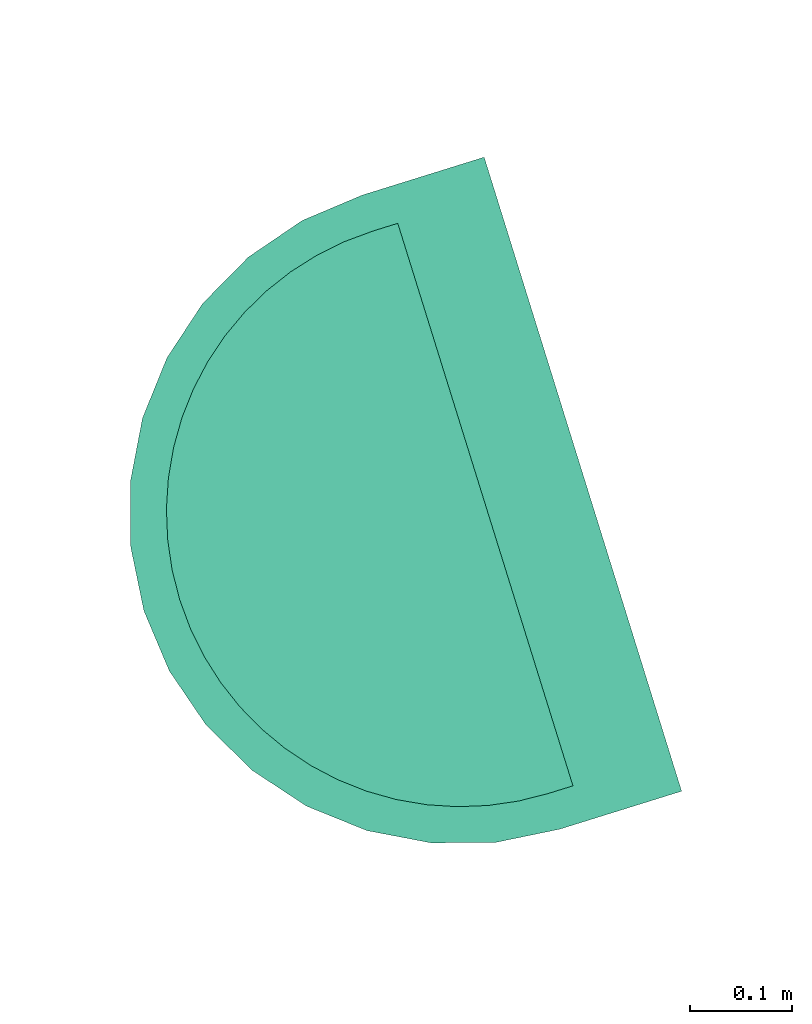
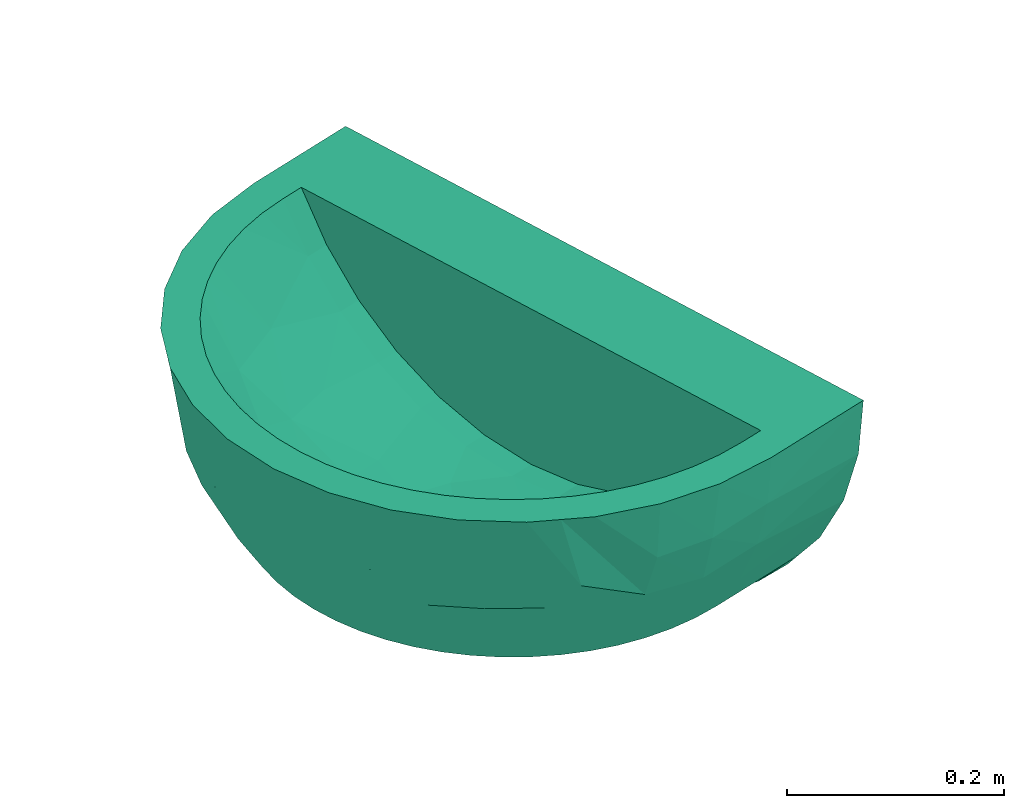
# Not in any storey, part 10 of 17: 1 sanitary terminal.
"""IFC4 model written with IfcOpenShell, lengths in metres."""

import ifcopenshell
import ifcopenshell.guid

model = None  # the IFC model being written
_history = None  # IfcOwnerHistory: only IFC2X3 demands one
_inside = {}  # id of a spatial element -> (the spatial element, [elements in it])
_under = {}  # id of a project, library or spatial element -> (it, [spatial elements below it])
_declared = {}  # id of a project -> (the project, [libraries it declares])
_typed = {}  # id of a type object -> (the type object, [elements of that type])
_made_of = {}  # id of a material, layer set ... -> (it, [elements and type objects made of it])


def new_model(schema):
    """Start an empty IFC model of exactly this schema.

    Asked for "IFC4X3", IfcOpenShell would pick the latest addendum, in which some entities
    have other attributes; the version numbers below select the first issue.
    IFC2X3 requires an IfcOwnerHistory on every rooted entity: one is made here for all.
    """
    global model, _history
    if schema == "IFC4X3":
        model = ifcopenshell.file(schema_version=(4, 3, 0, 0))
    else:
        model = ifcopenshell.file(schema=schema)
    _inside.clear()
    _under.clear()
    _declared.clear()
    _typed.clear()
    _made_of.clear()
    _history = None
    if model.schema == "IFC2X3":
        org = make("IfcOrganization", Name="unknown")
        user = make(
            "IfcPersonAndOrganization",
            ThePerson=make("IfcPerson", FamilyName="unknown"),
            TheOrganization=org,
        )
        app = make(
            "IfcApplication",
            ApplicationDeveloper=org,
            Version="unknown",
            ApplicationFullName="unknown",
            ApplicationIdentifier="unknown",
        )
        _history = make(
            "IfcOwnerHistory",
            OwningUser=user,
            OwningApplication=app,
            ChangeAction="ADDED",
            CreationDate=0,
        )
    return model


def make(cls, **values):
    """One entity of the class cls with the attributes given. An attribute that is None is left unset."""
    return model.create_entity(
        cls, **{name: value for name, value in values.items() if value is not None}
    )


def entity(cls, *values):
    """Any entity or typed value of the class cls, its attributes in the order of the schema. None: left unset."""
    e = model.create_entity(cls)
    for i, value in enumerate(values):
        if value is not None:
            e[i] = value
    return e


def rooted(cls, **values):
    """An entity with a GlobalId (a new one), such as an element, a storey or a relation."""
    return make(cls, GlobalId=ifcopenshell.guid.new(), OwnerHistory=_history, **values)


def si_unit(unit_type, name, prefix=None):
    """IfcSIUnit, for example si_unit("LENGTHUNIT", "METRE", prefix="MILLI")."""
    return make("IfcSIUnit", UnitType=unit_type, Prefix=prefix, Name=name)


def converted_unit(unit_type, name, factor, base, dimensions=None, offset=None):
    """IfcConversionBasedUnit, such as the inch: factor (a typed value) times the base unit."""
    return make(
        "IfcConversionBasedUnit"
        if offset is None
        else "IfcConversionBasedUnitWithOffset",
        ConversionOffset=offset,
        Dimensions=None
        if dimensions is None
        else entity("IfcDimensionalExponents", *dimensions),
        UnitType=unit_type,
        Name=name,
        ConversionFactor=make(
            "IfcMeasureWithUnit", ValueComponent=factor, UnitComponent=base
        ),
    )


def assignment(units):
    """IfcUnitAssignment: the units of a project."""
    return None if units is None else make("IfcUnitAssignment", Units=units)


def point(xyz):
    """IfcCartesianPoint."""
    return None if xyz is None else make("IfcCartesianPoint", Coordinates=xyz)


def direction(xyz):
    """IfcDirection."""
    return None if xyz is None else make("IfcDirection", DirectionRatios=xyz)


def frame(location, z_axis=None, x_axis=None):
    """IfcAxis2Placement3D, a coordinate frame: its origin and axes. An axis left out is left unset."""
    return make(
        "IfcAxis2Placement3D",
        Location=point(location),
        Axis=direction(z_axis),
        RefDirection=direction(x_axis),
    )


def origin():
    """The frame at (0, 0, 0) with its axes left unset."""
    return frame((0.0, 0.0, 0.0))


def place(relative_to, where):
    """IfcLocalPlacement: puts the frame where relative to a parent placement (None: the world)."""
    return make(
        "IfcLocalPlacement", PlacementRelTo=relative_to, RelativePlacement=where
    )


def context(
    kind, dimensions, precision=None, world=None, true_north=None, identifier=None
):
    """IfcGeometricRepresentationContext, for example the 3D "Model" context."""
    return make(
        "IfcGeometricRepresentationContext",
        ContextIdentifier=identifier,
        ContextType=kind,
        CoordinateSpaceDimension=dimensions,
        Precision=precision,
        WorldCoordinateSystem=world,
        TrueNorth=true_north,
    )


def subcontext(parent, identifier, kind, view, scale=None):
    """IfcGeometricRepresentationSubContext, for example "Body" below "Model"."""
    return make(
        "IfcGeometricRepresentationSubContext",
        ContextIdentifier=identifier,
        ContextType=kind,
        ParentContext=parent,
        TargetScale=scale,
        TargetView=view,
    )


def project(units=None, contexts=None):
    """IfcProject with its units and contexts."""
    return rooted(
        "IfcProject",
        Name="project",
        RepresentationContexts=contexts,
        UnitsInContext=assignment(units),
    )


def point_list(points):
    """IfcCartesianPointList2D or 3D."""
    cls = (
        "IfcCartesianPointList2D" if len(points[0]) == 2 else "IfcCartesianPointList3D"
    )
    return make(cls, CoordList=points)


def polygons(points, faces, closed=None, point_numbers=None):
    """IfcPolygonalFaceSet: a face is its outer loop, then its inner loops; points numbered from 1."""
    made = []
    for loops in faces:
        if len(loops) == 1:
            made.append(make("IfcIndexedPolygonalFace", CoordIndex=loops[0]))
        else:
            made.append(
                make(
                    "IfcIndexedPolygonalFaceWithVoids",
                    CoordIndex=loops[0],
                    InnerCoordIndices=loops[1:],
                )
            )
    return make(
        "IfcPolygonalFaceSet",
        Coordinates=point_list(points),
        Closed=closed,
        Faces=made,
        PnIndex=point_numbers,
    )


def shape(context_of_items, identifier, shape_type, items):
    """IfcShapeRepresentation: the items that make up one representation, for example the "Body"."""
    return make(
        "IfcShapeRepresentation",
        ContextOfItems=context_of_items,
        RepresentationIdentifier=identifier,
        RepresentationType=shape_type,
        Items=items,
    )


def source(mapping_origin, context_of_items, identifier, shape_type, items):
    """IfcRepresentationMap: a shape defined once, which mapped items show again and again."""
    return make(
        "IfcRepresentationMap",
        MappingOrigin=mapping_origin,
        MappedRepresentation=shape(context_of_items, identifier, shape_type, items),
    )


def transform(
    local_origin,
    x_axis=None,
    y_axis=None,
    z_axis=None,
    scale=None,
    scale2=None,
    scale3=None,
    uniform=True,
):
    """IfcCartesianTransformationOperator3D, or its non-uniform kind. x_axis, y_axis, z_axis: its Axis1, 2, 3."""
    if uniform:
        return make(
            "IfcCartesianTransformationOperator3D",
            Axis1=direction(x_axis),
            Axis2=direction(y_axis),
            LocalOrigin=point(local_origin),
            Scale=scale,
            Axis3=direction(z_axis),
        )
    return make(
        "IfcCartesianTransformationOperator3DnonUniform",
        Axis1=direction(x_axis),
        Axis2=direction(y_axis),
        LocalOrigin=point(local_origin),
        Scale=scale,
        Axis3=direction(z_axis),
        Scale2=scale2,
        Scale3=scale3,
    )


def mapped(mapping_source, mapping_target):
    """IfcMappedItem: shows the shape of a source again, moved by a transform."""
    return make(
        "IfcMappedItem", MappingSource=mapping_source, MappingTarget=mapping_target
    )


def material(Name=None, Category=None):
    """IfcMaterial."""
    return make("IfcMaterial", Name=Name, Category=Category)


def made_of(thing, what):
    """Note that an element or type object is made of a material, layer set ...; save() writes the relation."""
    if what is not None:
        _made_of.setdefault(what.id(), (what, []))[1].append(thing)
    return thing


def type_object(cls, material=None, **own):
    """A type object (cls), such as IfcWallType, which elements share."""
    return made_of(rooted(cls, **own), material)


def type_shapes(of_type, sources):
    """Give a type object the sources (RepresentationMaps) that its elements show as mapped items."""
    of_type.RepresentationMaps = sources


def element(
    cls,
    number,
    at=None,
    inside=None,
    cuts=None,
    type_object=None,
    material=None,
    context=None,
    identifier="Body",
    shape_type=None,
    held_by="IfcProductDefinitionShape",
    body=None,
    shapes=None,
    **own,
):
    """One element of the class cls, such as IfcWall. Its Tag is "e" and its number.

    at: its placement. inside: the storey or other place that contains it. cuts: it is an
    opening in that element (IfcRelVoidsElement). A single representation is given by context,
    identifier, shape_type and body (its items); several are given by shapes. held_by: the class
    of the entity that holds the representations. save() writes the other relations.
    """
    e = rooted(cls, Tag="e%d" % number, ObjectPlacement=at, **own)
    if body is not None:
        shapes = [shape(context, identifier, shape_type, body)]
    if shapes is not None:
        e.Representation = make(held_by, Representations=shapes)
    if inside is not None:
        _inside.setdefault(inside.id(), (inside, []))[1].append(e)
    if cuts is not None:
        rooted(
            "IfcRelVoidsElement", RelatingBuildingElement=cuts, RelatedOpeningElement=e
        )
    if type_object is not None:
        _typed.setdefault(type_object.id(), (type_object, []))[1].append(e)
    return made_of(e, material)


def aggregate(whole, parts):
    """IfcRelAggregates: a whole, such as a stair, and the parts it consists of."""
    return rooted("IfcRelAggregates", RelatingObject=whole, RelatedObjects=parts)


def save(model, path):
    """Write the relations noted so far, then the file.

    IfcRelAggregates (storeys below a building ...), IfcRelContainedInSpatialStructure (elements
    in a storey), IfcRelDefinesByType, IfcRelAssociatesMaterial and IfcRelDeclares: one each for
    every whole, place, type object, material and project.
    """
    for whole, parts in _under.values():
        aggregate(whole, parts)
    for where, things in _inside.values():
        rooted(
            "IfcRelContainedInSpatialStructure",
            RelatedElements=things,
            RelatingStructure=where,
        )
    for kind, things in _typed.values():
        rooted("IfcRelDefinesByType", RelatedObjects=things, RelatingType=kind)
    for what, things in _made_of.values():
        rooted("IfcRelAssociatesMaterial", RelatedObjects=things, RelatingMaterial=what)
    for by, libraries in _declared.values():
        rooted("IfcRelDeclares", RelatingContext=by, RelatedDefinitions=libraries)
    model.write(path)


model = new_model("IFC4")

# Units and contexts
model_context = context("Model", 3, precision=1e-05, world=origin(), true_north=direction((6.12323399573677e-17, 1.0)))
body_context = subcontext(model_context, "Body", "Model", "MODEL_VIEW")
ifc_project = project(units=[si_unit("LENGTHUNIT", "METRE"), si_unit("AREAUNIT", "SQUARE_METRE"), converted_unit("PLANEANGLEUNIT", "DEGREE", entity("IfcPlaneAngleMeasure", 0.0174532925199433), si_unit("PLANEANGLEUNIT", "RADIAN"), dimensions=[0, 0, 0, 0, 0, 0, 0]), si_unit("VOLUMEUNIT", "CUBIC_METRE")], contexts=[model_context])

# Sanitary terminal
ifc_material = material(Name="<Unnamed>")
sanitary_terminal_type = type_object("IfcSanitaryTerminalType", Name="NLRS_74_PF_WB_wastafel_gen:wastafel", PredefinedType="SINK", material=ifc_material)
shared_shape = source(origin(), body_context, "Body", "Tessellation", [
    polygons([(-0.303081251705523, -0.175000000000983, -6.7), (-0.296836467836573, -0.238404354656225, -6.7), (-0.278342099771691, -0.299372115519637, -6.7), (-0.248308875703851, -0.355560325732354, -6.7), (-0.207890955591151, -0.404809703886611, -6.7), (-0.158641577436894, -0.44522762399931, -6.7), (-0.102453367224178, -0.475260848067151, -6.7), (-0.0414856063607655, -0.493755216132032, -6.7), (0.021918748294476, -0.500000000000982, -6.7), (0.021918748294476, -0.463314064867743, -6.7), (-0.00821701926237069, -0.461734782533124, -6.7), (-0.038024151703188, -0.457013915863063, -6.7), (-0.0671705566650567, -0.449204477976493, -6.7), (-0.0953421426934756, -0.438391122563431, -6.7), (-0.122231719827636, -0.424691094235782, -6.7), (-0.147543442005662, -0.408254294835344, -6.7), (-0.170998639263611, -0.389261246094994, -6.7), (-0.192339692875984, -0.367920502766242, -6.7), (-0.21133265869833, -0.344466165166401, -6.7), (-0.227769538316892, -0.319155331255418, -6.7), (-0.241470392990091, -0.292265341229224, -6.7), (-0.252285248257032, -0.264090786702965, -6.7), (-0.260095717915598, -0.234940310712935, -6.7), (-0.264816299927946, -0.205133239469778, -6.7), (-0.266395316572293, -0.175000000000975, -6.7), (-0.266395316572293, -0.150000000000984, -6.7), (0.021918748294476, -0.150000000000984, -6.7), (0.021918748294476, -0.0499999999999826, -6.7), (-0.303081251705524, -0.0499999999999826, -6.7), (0.346918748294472, -0.175000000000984, -6.7), (0.346918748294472, -0.0499999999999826, -6.7), (0.310232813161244, -0.150000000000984, -6.7), (0.310232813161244, -0.175000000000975, -6.7), (0.308653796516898, -0.205133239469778, -6.7), (0.303933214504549, -0.234940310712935, -6.7), (0.296122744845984, -0.264090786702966, -6.7), (0.285307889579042, -0.292265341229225, -6.7), (0.271607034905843, -0.319155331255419, -6.7), (0.255170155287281, -0.344466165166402, -6.7), (0.236177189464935, -0.367920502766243, -6.7), (0.214836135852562, -0.389261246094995, -6.7), (0.191380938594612, -0.408254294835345, -6.7), (0.166069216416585, -0.424691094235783, -6.7), (0.139179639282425, -0.438391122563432, -6.7), (0.111008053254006, -0.449204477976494, -6.7), (0.0818616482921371, -0.457013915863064, -6.7), (0.0520545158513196, -0.461734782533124, -6.7), (0.0853231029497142, -0.493755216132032, -6.7), (0.146290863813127, -0.475260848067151, -6.7), (0.202479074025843, -0.44522762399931, -6.7), (0.2517284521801, -0.404809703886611, -6.7), (0.292146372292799, -0.355560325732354, -6.7), (0.32217959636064, -0.299372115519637, -6.7), (0.340673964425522, -0.238404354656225, -6.7), (-0.296836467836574, -0.0499999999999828, -6.76340435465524), (-0.278342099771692, -0.049999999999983, -6.82437211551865), (-0.248308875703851, -0.0499999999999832, -6.88056032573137), (-0.207890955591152, -0.0499999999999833, -6.92980970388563), (-0.158641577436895, -0.0499999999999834, -6.97022762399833), (-0.102453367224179, -0.0499999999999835, -7.00026084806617), (-0.0414856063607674, -0.0499999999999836, -7.01875521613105), (0.0219187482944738, -0.0499999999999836, -7.025), (0.085323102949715, -0.0499999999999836, -7.01875521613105), (0.146290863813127, -0.0499999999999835, -7.00026084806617), (0.202479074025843, -0.0499999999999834, -6.97022762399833), (0.2517284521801, -0.0499999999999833, -6.92980970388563), (0.292146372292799, -0.0499999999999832, -6.88056032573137), (0.32217959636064, -0.049999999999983, -6.82437211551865), (0.340673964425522, -0.0499999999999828, -6.76340435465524), (0.34246627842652, -0.175000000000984, -6.75361232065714), (0.329230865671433, -0.175000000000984, -6.8057556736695), (0.307575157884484, -0.175000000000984, -6.85500134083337), (0.278092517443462, -0.175000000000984, -6.9), (0.278092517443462, -0.0749999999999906, -6.9), (0.237763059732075, -0.0749999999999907, -6.94297372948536), (0.190336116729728, -0.0749999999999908, -6.97795789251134), (0.137371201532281, -0.0749999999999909, -7.00380212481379), (0.0806099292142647, -0.074999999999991, -7.01965660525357), (0.0219187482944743, -0.074999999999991, -7.025), (-0.0367724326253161, -0.074999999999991, -7.01965660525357), (-0.0935337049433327, -0.0749999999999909, -7.00380212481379), (-0.146498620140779, -0.0749999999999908, -6.97795789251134), (-0.193925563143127, -0.0749999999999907, -6.94297372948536), (-0.234255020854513, -0.0749999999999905, -6.9), (-0.234255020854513, -0.175000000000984, -6.9), (-0.263737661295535, -0.175000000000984, -6.85500134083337), (-0.285393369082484, -0.175000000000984, -6.8057556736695), (-0.298628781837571, -0.175000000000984, -6.75361232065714), (-0.228099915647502, -0.0499999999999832, -6.9051850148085), (-0.183266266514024, -0.0499999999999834, -6.95001866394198), (-0.130547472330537, -0.0499999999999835, -6.98524423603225), (-0.0719694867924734, -0.0499999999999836, -7.00950803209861), (0.115806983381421, -0.0499999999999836, -7.00950803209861), (0.174384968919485, -0.0499999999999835, -6.98524423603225), (0.227103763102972, -0.0499999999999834, -6.95001866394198), (0.27193741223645, -0.0499999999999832, -6.9051850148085), (0.257927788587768, -0.0749999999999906, -6.92148686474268), (0.214049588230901, -0.0749999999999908, -6.96046581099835), (-0.170212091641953, -0.0749999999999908, -6.96046581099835), (-0.21409029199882, -0.0749999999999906, -6.92148686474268), (-0.120016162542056, -0.0749999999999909, -6.99088000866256), (-0.0651530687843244, -0.0749999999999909, -7.01172936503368), (0.108990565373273, -0.0749999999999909, -7.01172936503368), (0.163853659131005, -0.0749999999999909, -6.99088000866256), (-0.232753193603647, -0.202698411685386, -6.9), (-0.228265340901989, -0.230071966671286, -6.9), (-0.220844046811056, -0.256799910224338, -6.9), (-0.210576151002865, -0.282569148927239, -6.9), (-0.197581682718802, -0.307077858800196, -6.9), (-0.182012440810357, -0.33003893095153, -6.9), (-0.164050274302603, -0.351183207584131, -6.9), (-0.1439051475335, -0.370262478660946, -6.9), (-0.121813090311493, -0.387052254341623, -6.9), (-0.0980340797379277, -0.401354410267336, -6.9), (-0.0728496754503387, -0.412999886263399, -6.9), (-0.0465597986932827, -0.421851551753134, -6.9), (-0.0194777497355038, -0.427806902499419, -6.9), (0.00807674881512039, -0.43079952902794, -6.9), (0.0357845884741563, -0.430798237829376, -6.9), (0.0633306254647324, -0.427804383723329, -6.9), (0.0904016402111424, -0.421850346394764, -6.9), (0.116683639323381, -0.413001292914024, -6.9), (0.141864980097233, -0.401357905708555, -6.9), (0.165644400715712, -0.38705644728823, -6.9), (0.18773840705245, -0.370266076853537, -6.9), (0.207885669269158, -0.351185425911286, -6.9), (0.225849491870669, -0.330039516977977, -6.9), (0.24141970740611, -0.307076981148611, -6.9), (0.254414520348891, -0.282567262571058, -6.9), (0.264682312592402, -0.256797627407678, -6.9), (0.272103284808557, -0.230069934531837, -6.9), (0.27659082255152, -0.202697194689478, -6.9), (-0.257045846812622, -0.297316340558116, -6.81332461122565), (0.300884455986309, -0.297313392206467, -6.81332505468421), (-0.00978342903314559, -0.496877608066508, -6.7), (-0.205655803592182, -0.378737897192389, -6.81102113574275), (0.249493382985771, -0.378737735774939, -6.81102126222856), (0.0536209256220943, -0.496877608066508, -6.7), (0.0219337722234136, -0.481913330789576, -6.80690747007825), (-0.0719694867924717, -0.484508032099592, -6.7), (0.11580698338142, -0.484508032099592, -6.7), (-0.0425022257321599, -0.471258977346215, -6.81707073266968), (-0.165040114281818, -0.416191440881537, -6.81179477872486), (0.20887408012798, -0.416198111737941, -6.81178629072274), (0.0863501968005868, -0.471256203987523, -6.8170719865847), (-0.23446246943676, -0.305265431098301, -6.85140868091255), (0.278301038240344, -0.305263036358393, -6.85140892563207), (-0.120243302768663, -0.443687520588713, -6.81498681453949), (0.164074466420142, -0.443691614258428, -6.81498507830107), (-0.233336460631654, -0.358005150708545, -6.78353976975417), (0.277175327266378, -0.358003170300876, -6.78353992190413), (-0.290060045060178, -0.240925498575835, -6.76283359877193), (0.333897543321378, -0.240925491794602, -6.76283359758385), (-0.275008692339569, -0.237028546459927, -6.81666856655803), (-0.254394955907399, -0.239447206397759, -6.85850014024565), (-0.272362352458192, -0.296908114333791, -6.76451391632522), (0.31884634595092, -0.237026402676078, -6.81666930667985), (0.298232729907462, -0.239444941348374, -6.85850057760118), (0.316201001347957, -0.296905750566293, -6.76451312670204), (-0.0755829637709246, -0.474402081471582, -6.78047862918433), (-0.0690330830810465, -0.449635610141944, -6.84808121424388), (0.119420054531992, -0.474406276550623, -6.7804635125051), (0.112885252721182, -0.449636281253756, -6.84807095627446), (-0.228099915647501, -0.380185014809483, -6.7), (0.27193741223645, -0.380185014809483, -6.7), (-0.183266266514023, -0.425018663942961, -6.7), (0.227103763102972, -0.425018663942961, -6.7), (-0.130547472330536, -0.460244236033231, -6.7), (0.174384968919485, -0.460244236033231, -6.7), (0.278352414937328, -0.175000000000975, -6.74966665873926), (0.238015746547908, -0.175000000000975, -6.79274902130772), (0.190552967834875, -0.175000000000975, -6.82782638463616), (0.137529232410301, -0.175000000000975, -6.85374202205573), (0.0806930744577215, -0.175000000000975, -6.86964132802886), (0.0219187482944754, -0.175000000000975, -6.875), (-0.0368555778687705, -0.175000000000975, -6.86964132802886), (-0.0936917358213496, -0.175000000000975, -6.85374202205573), (-0.146715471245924, -0.175000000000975, -6.82782638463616), (-0.194178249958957, -0.175000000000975, -6.79274902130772), (-0.234514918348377, -0.175000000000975, -6.74966665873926), (-0.119627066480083, -0.322173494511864, -6.80284332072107), (0.163464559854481, -0.32217349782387, -6.8028433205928), (-0.200517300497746, -0.262511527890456, -6.77020203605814), (0.244354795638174, -0.262511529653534, -6.77020203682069), (-0.162633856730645, -0.347041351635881, -6.75485875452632), (0.206471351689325, -0.347041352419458, -6.75485875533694), (0.00220012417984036, -0.367185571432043, -6.81134437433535), (-0.0912046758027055, -0.393814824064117, -6.76200981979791), (0.135042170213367, -0.393814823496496, -6.76200982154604), (0.0498196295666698, -0.280825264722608, -6.85601887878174), (-0.0620730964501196, -0.266760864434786, -6.85025041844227), (0.160889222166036, -0.248929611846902, -6.83433540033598), (0.0405814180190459, -0.417340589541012, -6.76574926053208), (0.0863370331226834, -0.354389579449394, -6.81323879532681), (-0.00909478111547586, -0.420066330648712, -6.76120050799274), (-0.0478694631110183, -0.381606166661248, -6.79097405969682), (-0.0422183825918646, -0.327597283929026, -6.82968821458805), (-0.0074080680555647, -0.286981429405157, -6.8536858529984), (-0.00719351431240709, -0.22811728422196, -6.869305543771), (-0.0504034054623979, -0.422275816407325, -6.7481140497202), (0.115439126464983, -0.298042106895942, -6.83590134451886), (0.101584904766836, -0.237319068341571, -6.85886022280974), (-0.144773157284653, -0.251326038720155, -6.81835264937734), (0.0860600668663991, -0.418745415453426, -6.75518056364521), (0.278341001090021, -0.150000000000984, -6.74968131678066), (0.238003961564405, -0.150000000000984, -6.79275951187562), (0.19054233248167, -0.150000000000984, -6.82783283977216), (0.137520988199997, -0.150000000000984, -6.85374515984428), (0.080687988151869, -0.150000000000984, -6.86964226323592), (0.021917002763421, -0.150000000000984, -6.87499999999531), (-0.0368543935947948, -0.150000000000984, -6.869641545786), (-0.0936885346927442, -0.150000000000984, -6.85374324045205), (-0.146711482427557, -0.150000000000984, -6.8278288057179), (-0.19417475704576, -0.150000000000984, -6.79275213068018), (-0.234512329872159, -0.150000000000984, -6.74966998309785)], [[[9, 138, 48, 141, 49, 169, 50, 167, 51, 165, 52, 53, 54, 30, 31, 28, 29, 1, 2, 3, 4, 164, 5, 166, 6, 168, 7, 140, 8, 135], [10, 11, 12, 13, 14, 15, 16, 17, 18, 19, 20, 21, 22, 23, 24, 25, 26, 27, 32, 33, 34, 35, 36, 37, 38, 39, 40, 41, 42, 43, 44, 45, 46, 47]], [[1, 29, 88]], [[87, 88, 55]], [[56, 86, 87]], [[58, 100, 89]], [[93, 103, 63]], [[91, 60, 101]], [[97, 75, 66]], [[61, 102, 92]], [[61, 62, 80]], [[84, 85, 86]], [[94, 65, 76]], [[89, 84, 57]], [[86, 56, 57]], [[88, 29, 55]], [[55, 56, 87]], [[86, 57, 84]], [[82, 59, 91]], [[92, 81, 60]], [[58, 90, 83]], [[59, 82, 99]], [[93, 64, 77]], [[59, 99, 90]], [[84, 89, 100]], [[100, 58, 83]], [[81, 101, 60]], [[62, 79, 80]], [[103, 93, 77]], [[98, 76, 65]], [[98, 95, 75]], [[95, 66, 75]], [[101, 82, 91]], [[104, 94, 76]], [[69, 70, 71]], [[72, 73, 74]], [[71, 72, 68]], [[80, 102, 61]], [[78, 79, 62]], [[30, 70, 31]], [[83, 90, 99]], [[78, 63, 103]], [[104, 77, 64]], [[65, 95, 98]], [[102, 81, 92]], [[62, 63, 78]], [[96, 67, 74]], [[97, 66, 96]], [[67, 72, 74]], [[72, 67, 68]], [[68, 69, 71]], [[69, 31, 70]], [[97, 96, 74]], [[94, 104, 64]], [[28, 31, 69, 68, 67, 96, 66, 95, 65, 94, 64, 93, 63, 62, 61, 92, 60, 91, 59, 90, 58, 89, 57, 56, 55, 29]], [[6, 136, 143]], [[52, 159, 53]], [[158, 157, 134]], [[111, 112, 143]], [[136, 150, 146]], [[143, 110, 111]], [[129, 147, 128]], [[110, 143, 136]], [[148, 143, 112]], [[159, 157, 153]], [[161, 115, 116]], [[139, 135, 142]], [[53, 159, 153]], [[142, 117, 118]], [[143, 148, 7]], [[8, 160, 142]], [[134, 151, 147]], [[148, 161, 160]], [[114, 148, 113]], [[7, 148, 140]], [[8, 140, 160]], [[130, 131, 158]], [[136, 146, 109]], [[152, 3, 2]], [[160, 140, 148]], [[87, 152, 88]], [[154, 133, 156]], [[1, 88, 2]], [[2, 88, 152]], [[165, 51, 151]], [[147, 151, 137]], [[4, 3, 156]], [[142, 161, 116]], [[139, 142, 118]], [[107, 155, 106]], [[146, 107, 108]], [[124, 125, 149]], [[166, 5, 150]], [[155, 86, 85]], [[118, 119, 139]], [[86, 154, 87]], [[154, 86, 155]], [[148, 114, 161]], [[139, 145, 138]], [[107, 146, 155]], [[136, 109, 110]], [[150, 164, 133]], [[85, 105, 155]], [[142, 160, 161]], [[48, 138, 145]], [[158, 73, 72]], [[146, 108, 109]], [[9, 135, 139]], [[9, 139, 138]], [[119, 145, 139]], [[8, 142, 135]], [[120, 121, 145]], [[124, 149, 123]], [[49, 141, 149]], [[137, 50, 144]], [[156, 152, 154]], [[133, 155, 146]], [[137, 144, 127]], [[112, 113, 148]], [[162, 145, 163]], [[134, 165, 151]], [[149, 125, 144]], [[127, 128, 137]], [[120, 145, 119]], [[155, 133, 154]], [[48, 145, 162]], [[152, 156, 3]], [[133, 146, 150]], [[168, 6, 143, 7]], [[144, 125, 126]], [[144, 126, 127]], [[163, 145, 121]], [[151, 167, 137]], [[147, 137, 128]], [[142, 116, 117]], [[157, 158, 72]], [[158, 147, 130]], [[141, 48, 162]], [[158, 134, 147]], [[147, 129, 130]], [[72, 71, 157]], [[158, 132, 73]], [[87, 154, 152]], [[70, 54, 153]], [[163, 122, 123]], [[167, 50, 137]], [[133, 164, 156]], [[54, 70, 30]], [[71, 70, 153]], [[136, 166, 150]], [[159, 134, 157]], [[158, 131, 132]], [[53, 153, 54]], [[169, 49, 144, 50]], [[105, 106, 155]], [[150, 5, 164]], [[165, 134, 159]], [[71, 153, 157]], [[114, 115, 161]], [[162, 149, 141]], [[163, 123, 149]], [[162, 163, 149]], [[122, 163, 121]], [[4, 156, 164]], [[159, 52, 165]], [[166, 136, 6]], [[167, 151, 51]], [[149, 144, 49]], [[185, 16, 15]], [[198, 187, 190]], [[185, 18, 17]], [[190, 202, 199]], [[187, 198, 197]], [[20, 185, 183]], [[15, 14, 188]], [[181, 197, 191]], [[193, 195, 10]], [[204, 194, 193]], [[177, 203, 191]], [[196, 187, 197]], [[196, 200, 195]], [[10, 195, 11]], [[185, 15, 188]], [[187, 196, 195]], [[200, 196, 188]], [[191, 197, 198]], [[22, 183, 23]], [[13, 200, 188]], [[180, 24, 23]], [[190, 194, 201]], [[202, 201, 192]], [[25, 24, 180]], [[183, 22, 21]], [[200, 12, 11]], [[179, 183, 203]], [[178, 203, 177]], [[201, 202, 190]], [[180, 183, 179]], [[23, 183, 180]], [[19, 18, 185]], [[20, 183, 21]], [[172, 184, 171]], [[13, 188, 14]], [[185, 20, 19]], [[190, 199, 198]], [[16, 185, 17]], [[181, 188, 196]], [[191, 199, 176]], [[193, 187, 195]], [[194, 189, 182]], [[189, 43, 186]], [[184, 192, 182]], [[173, 174, 202]], [[45, 44, 189]], [[204, 47, 46]], [[186, 43, 42]], [[186, 41, 40]], [[181, 196, 197]], [[38, 184, 186]], [[187, 193, 194]], [[45, 189, 204]], [[39, 38, 186]], [[182, 201, 194]], [[186, 42, 41]], [[199, 175, 176]], [[184, 38, 37]], [[189, 44, 43]], [[177, 191, 176]], [[192, 184, 172]], [[172, 173, 192]], [[186, 184, 182]], [[203, 183, 181]], [[191, 198, 199]], [[185, 188, 181]], [[184, 170, 171]], [[11, 195, 200]], [[12, 200, 13]], [[184, 35, 170]], [[170, 34, 33]], [[34, 170, 35]], [[193, 10, 47]], [[186, 40, 39]], [[175, 199, 202]], [[36, 35, 184]], [[36, 184, 37]], [[183, 185, 181]], [[201, 182, 192]], [[204, 46, 45]], [[187, 194, 190]], [[189, 186, 182]], [[173, 202, 192]], [[202, 174, 175]], [[191, 203, 181]], [[179, 203, 178]], [[194, 204, 189]], [[47, 204, 193]], [[180, 26, 25]], [[179, 215, 180]], [[213, 178, 177]], [[179, 178, 214]], [[212, 177, 176]], [[215, 26, 180]], [[214, 215, 179]], [[210, 211, 176]], [[212, 213, 177]], [[211, 212, 176]], [[214, 178, 213]], [[176, 175, 210]], [[209, 175, 174]], [[173, 208, 174]], [[206, 172, 171]], [[173, 172, 207]], [[205, 171, 170]], [[209, 174, 208]], [[208, 173, 207]], [[171, 205, 206]], [[206, 207, 172]], [[205, 170, 32]], [[33, 32, 170]], [[175, 209, 210]], [[32, 27, 26, 215, 214, 213, 212, 211, 210, 209, 208, 207, 206, 205]], [[82, 101, 81, 102, 80, 79, 78, 103, 77, 104, 76, 98, 75, 97, 74, 84, 100, 83, 99]], [[73, 132, 131, 130, 129, 128, 127, 126, 125, 124, 123, 122, 121, 120, 119, 118, 117, 116, 115, 114, 113, 112, 111, 110, 109, 108, 107, 106, 105, 85, 84, 74]]], closed=True),
])
type_shapes(sanitary_terminal_type, [shared_shape])
placement_1 = place(None, frame((13.1347999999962, 11.9886000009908, 0.0), z_axis=(0.0, 0.0, 1.0), x_axis=(0.954770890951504, 0.297342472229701, 0.0)))
placement_2 = place(placement_1, origin())
placement_3 = place(placement_2, frame((0.0, 0.0, 3.9)))
placement_4 = place(placement_3, origin())
sanitary_terminal_placement = place(placement_4, frame((75.2749999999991, 16.1469187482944, 7.525), z_axis=(0.0, 0.0, 1.0), x_axis=(0.0, -1.0, 0.0)))
element("IfcSanitaryTerminal", 1, at=sanitary_terminal_placement, type_object=sanitary_terminal_type, material=ifc_material, Name="NLRS_74_PF_WB_wastafel_gen:wastafel", ObjectType="NLRS_74_PF_WB_wastafel_gen:wastafel", PredefinedType="SINK", context=body_context, shape_type="MappedRepresentation", body=[
    mapped(shared_shape, transform((0.0, 0.0, 0.0), scale=1.0)),
])

save(model, "model.ifc")
